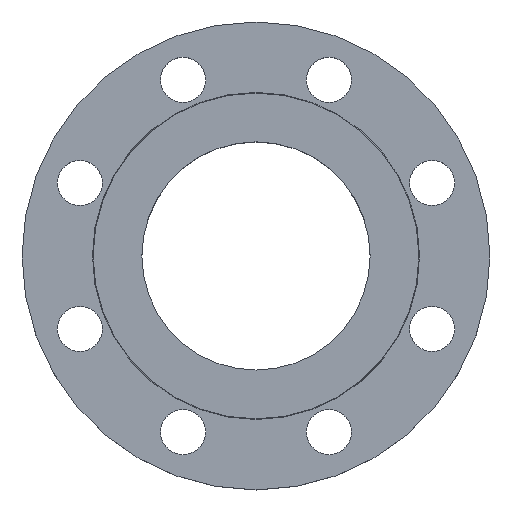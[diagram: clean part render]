
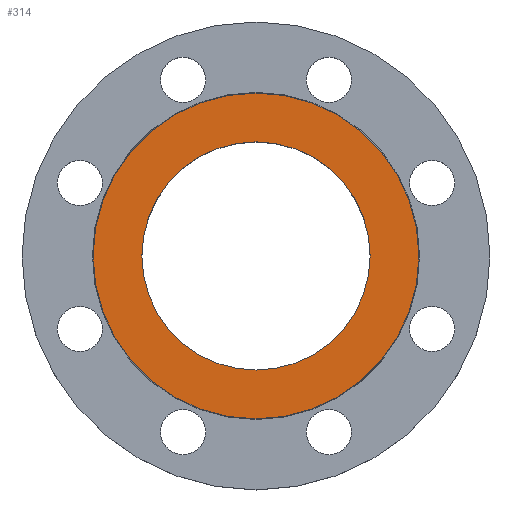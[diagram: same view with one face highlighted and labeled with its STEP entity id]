
A CAD part, top view. The second image highlights one B-rep face of the part: STEP entity #314.
In plain terms, the highlighted planar face has unit normal (0, 0, 1).
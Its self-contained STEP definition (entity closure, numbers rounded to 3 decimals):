
#4 = AXIS2_PLACEMENT_3D ( 'NONE', #796, #1053, #285 ) ;
#63 = EDGE_CURVE ( 'NONE', #358, #462, #405, .T. ) ;
#65 = DIRECTION ( 'NONE',  ( 1., 0., 0. ) ) ;
#77 = VERTEX_POINT ( 'NONE', #698 ) ;
#126 = EDGE_CURVE ( 'NONE', #361, #77, #516, .T. ) ;
#154 = PLANE ( 'NONE',  #242 ) ;
#197 = CARTESIAN_POINT ( 'NONE',  ( 0., 0., 0. ) ) ;
#242 = AXIS2_PLACEMENT_3D ( 'NONE', #511, #842, #65 ) ;
#253 = CARTESIAN_POINT ( 'NONE',  ( 65.85, 0., 0. ) ) ;
#285 = DIRECTION ( 'NONE',  ( -1., 0., 0. ) ) ;
#314 = ADVANCED_FACE ( 'NONE', ( #597, #925 ), #154, .T. ) ;
#323 = CARTESIAN_POINT ( 'NONE',  ( 0., 0., 0. ) ) ;
#329 = EDGE_LOOP ( 'NONE', ( #708, #624 ) ) ;
#351 = CARTESIAN_POINT ( 'NONE',  ( 0., 0., 0. ) ) ;
#358 = VERTEX_POINT ( 'NONE', #1103 ) ;
#361 = VERTEX_POINT ( 'NONE', #253 ) ;
#405 = CIRCLE ( 'NONE', #540, 94. ) ;
#462 = VERTEX_POINT ( 'NONE', #860 ) ;
#471 = DIRECTION ( 'NONE',  ( 0., 0., -1. ) ) ;
#479 = AXIS2_PLACEMENT_3D ( 'NONE', #351, #686, #1027 ) ;
#484 = AXIS2_PLACEMENT_3D ( 'NONE', #197, #471, #804 ) ;
#511 = CARTESIAN_POINT ( 'NONE',  ( 0., 0., 0. ) ) ;
#516 = CIRCLE ( 'NONE', #4, 65.85 ) ;
#540 = AXIS2_PLACEMENT_3D ( 'NONE', #323, #666, #1001 ) ;
#597 = FACE_BOUND ( 'NONE', #329, .T. ) ;
#624 = ORIENTED_EDGE ( 'NONE', *, *, #126, .T. ) ;
#657 = ORIENTED_EDGE ( 'NONE', *, *, #951, .F. ) ;
#666 = DIRECTION ( 'NONE',  ( 0., 0., -1. ) ) ;
#686 = DIRECTION ( 'NONE',  ( 0., 0., -1. ) ) ;
#698 = CARTESIAN_POINT ( 'NONE',  ( -65.85, 0., 0. ) ) ;
#708 = ORIENTED_EDGE ( 'NONE', *, *, #724, .T. ) ;
#724 = EDGE_CURVE ( 'NONE', #77, #361, #947, .T. ) ;
#796 = CARTESIAN_POINT ( 'NONE',  ( 0., 0., 0. ) ) ;
#804 = DIRECTION ( 'NONE',  ( -1., 0., 0. ) ) ;
#842 = DIRECTION ( 'NONE',  ( 0., 0., 1. ) ) ;
#860 = CARTESIAN_POINT ( 'NONE',  ( -94., 0., 0. ) ) ;
#925 = FACE_OUTER_BOUND ( 'NONE', #1031, .T. ) ;
#943 = CIRCLE ( 'NONE', #479, 94. ) ;
#947 = CIRCLE ( 'NONE', #484, 65.85 ) ;
#951 = EDGE_CURVE ( 'NONE', #462, #358, #943, .T. ) ;
#1001 = DIRECTION ( 'NONE',  ( -1., 0., 0. ) ) ;
#1027 = DIRECTION ( 'NONE',  ( -1., 0., 0. ) ) ;
#1031 = EDGE_LOOP ( 'NONE', ( #657, #1114 ) ) ;
#1053 = DIRECTION ( 'NONE',  ( 0., 0., -1. ) ) ;
#1103 = CARTESIAN_POINT ( 'NONE',  ( 94., 0., 0. ) ) ;
#1114 = ORIENTED_EDGE ( 'NONE', *, *, #63, .F. ) ;
